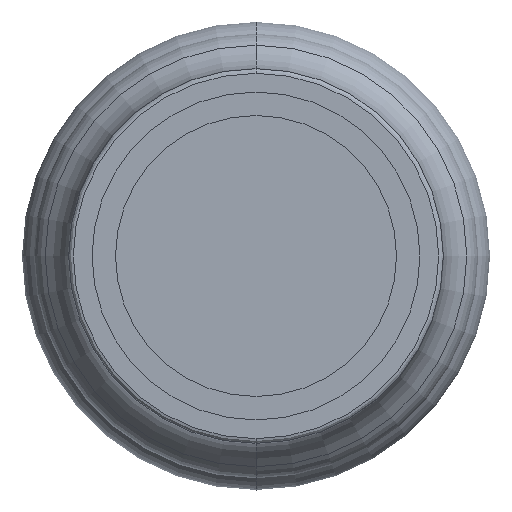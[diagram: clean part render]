
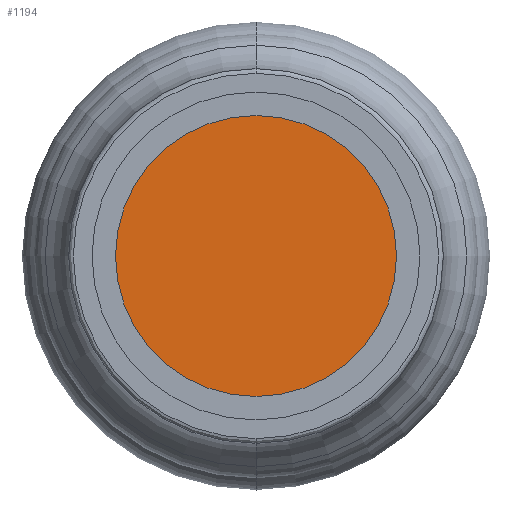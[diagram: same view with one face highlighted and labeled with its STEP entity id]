
A CAD part, front view. The second image highlights one B-rep face of the part: STEP entity #1194.
In plain terms, the highlighted planar face has unit normal (0, -1, 0).
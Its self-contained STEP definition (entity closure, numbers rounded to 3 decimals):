
#3 = CARTESIAN_POINT ( 'NONE',  ( 100., 130., -30. ) ) ;
#20 = DIRECTION ( 'NONE',  ( 0., 1., 0. ) ) ;
#21 = ORIENTED_EDGE ( 'NONE', *, *, #984, .F. ) ;
#105 = AXIS2_PLACEMENT_3D ( 'NONE', #798, #20, #810 ) ;
#322 = CIRCLE ( 'NONE', #1446, 30. ) ;
#338 = EDGE_LOOP ( 'NONE', ( #21, #917 ) ) ;
#361 = CARTESIAN_POINT ( 'NONE',  ( 100., 130., 30. ) ) ;
#367 = CARTESIAN_POINT ( 'NONE',  ( 100., 130., 0. ) ) ;
#472 = EDGE_CURVE ( 'NONE', #1466, #1091, #322, .T. ) ;
#564 = DIRECTION ( 'NONE',  ( -1., 0., 0. ) ) ;
#798 = CARTESIAN_POINT ( 'NONE',  ( 100., 130., 0. ) ) ;
#810 = DIRECTION ( 'NONE',  ( -1., 0., 0. ) ) ;
#916 = CIRCLE ( 'NONE', #105, 30. ) ;
#917 = ORIENTED_EDGE ( 'NONE', *, *, #472, .F. ) ;
#967 = DIRECTION ( 'NONE',  ( -1., 0., 0. ) ) ;
#983 = PLANE ( 'NONE',  #1457 ) ;
#984 = EDGE_CURVE ( 'NONE', #1091, #1466, #916, .T. ) ;
#988 = FACE_OUTER_BOUND ( 'NONE', #338, .T. ) ;
#1091 = VERTEX_POINT ( 'NONE', #361 ) ;
#1175 = DIRECTION ( 'NONE',  ( 0., 1., 0. ) ) ;
#1194 = ADVANCED_FACE ( 'NONE', ( #988 ), #983, .F. ) ;
#1306 = CARTESIAN_POINT ( 'NONE',  ( 100., 130., 0. ) ) ;
#1323 = DIRECTION ( 'NONE',  ( 0., 1., 0. ) ) ;
#1446 = AXIS2_PLACEMENT_3D ( 'NONE', #367, #1175, #564 ) ;
#1457 = AXIS2_PLACEMENT_3D ( 'NONE', #1306, #1323, #967 ) ;
#1466 = VERTEX_POINT ( 'NONE', #3 ) ;
